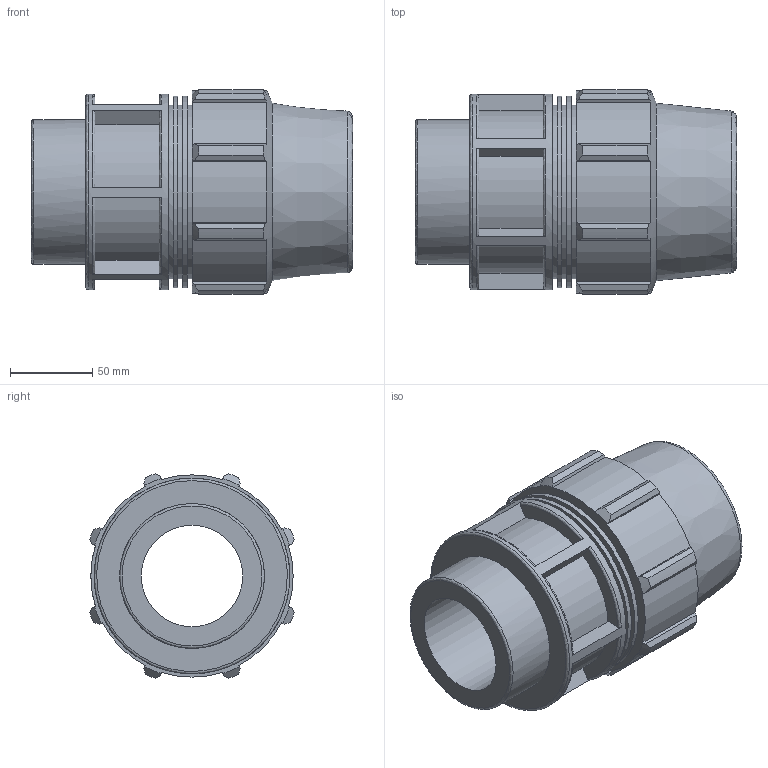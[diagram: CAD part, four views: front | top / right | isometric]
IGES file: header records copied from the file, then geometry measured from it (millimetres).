
Global section: file name: 0702060750300A.ipt; native system: Autodesk Inventor 2015; preprocessor: unknown; author: KIM; date: 20180325.201122; units: millimetre
Bounding box: 195 x 124.2 x 124.2 mm (x, y, z)
Volume: 958715 mm3; surface area: 149150.9 mm2
Topology: 1 solids, 1 shells, 125 faces, 334 edges, 225 vertices
Faces by surface type: plane 67, cylinder 29, revolution 19, cone 10
Full cylindrical faces by diameter (mm): 87.884 x1, 105.6 x3, 116.424 x2, 118.8 x1
